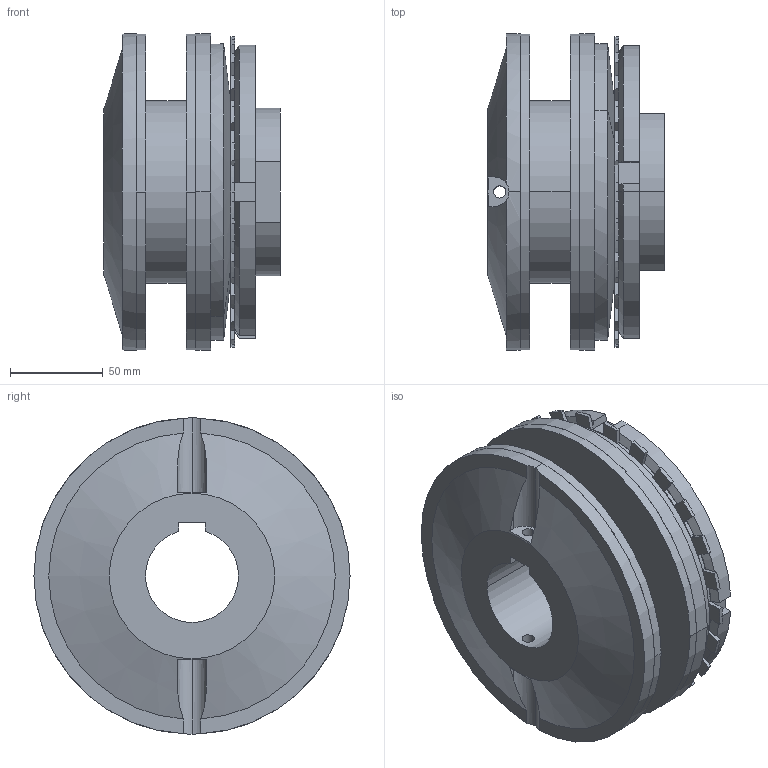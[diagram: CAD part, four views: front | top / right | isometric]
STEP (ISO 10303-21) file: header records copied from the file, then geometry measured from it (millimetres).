
FILE_DESCRIPTION(('STEP AP214'),'1');
FILE_NAME('5_170_df_d50_with_keyway_t2.stp','2021-06-11T06:49:05',('TraceParts'),('TraceParts S.A.'),'Spatial InterOp 3D',' ',' ');
FILE_SCHEMA(('AUTOMOTIVE_DESIGN { 1 0 10303 214 1 1 1 1 }'));
Length unit declared in the file: millimetre
Products named in the file (1): 5_170_df_d50_with_keyway_t2
Bounding box: 95 x 170 x 170 mm (x, y, z)
Volume: 1152916.6 mm3; surface area: 220590.9 mm2
Topology: 1 solids, 1 shells, 219 faces, 625 edges, 409 vertices
Faces by surface type: cylinder 105, plane 102, cone 12
Entity records: 9114 total; most frequent: CARTESIAN_POINT 1433, DIRECTION 1268, ORIENTED_EDGE 1250, EDGE_CURVE 625, AXIS2_PLACEMENT_3D 450, VERTEX_POINT 409, LINE 368, VECTOR 368
